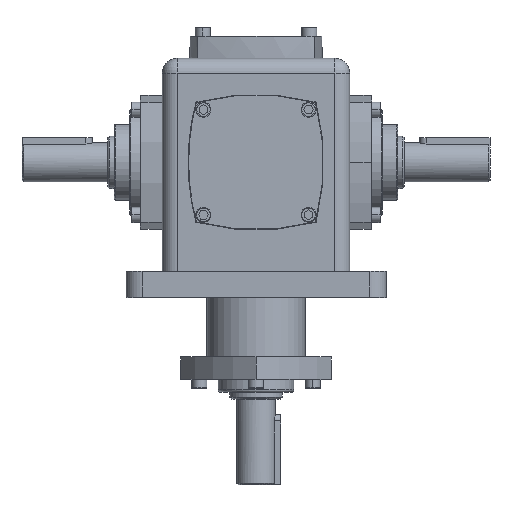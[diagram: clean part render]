
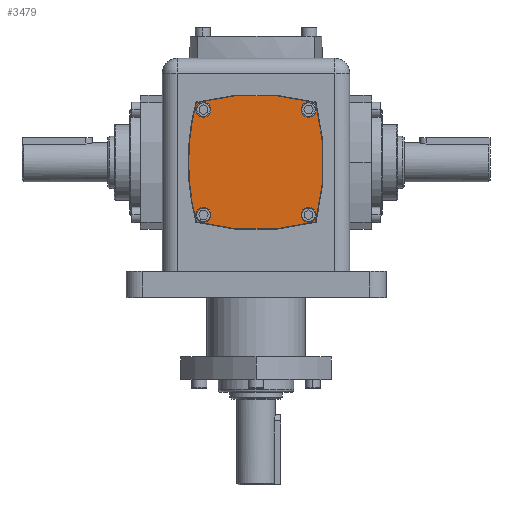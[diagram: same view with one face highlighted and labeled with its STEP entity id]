
A CAD part, top view. The second image highlights one B-rep face of the part: STEP entity #3479.
In plain terms, the highlighted planar face has unit normal (0, 0, 1).
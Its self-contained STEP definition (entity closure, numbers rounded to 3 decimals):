
#493 = VERTEX_POINT ( 'NONE', #20029 ) ;
#644 = EDGE_CURVE ( 'NONE', #18493, #1085, #46108, .T. ) ;
#790 = AXIS2_PLACEMENT_3D ( 'NONE', #41690, #12794, #17549 ) ;
#1085 = VERTEX_POINT ( 'NONE', #44661 ) ;
#3255 = EDGE_LOOP ( 'NONE', ( #30876, #55371 ) ) ;
#3479 = ADVANCED_FACE ( 'NONE', ( #26715, #28177, #43007, #57829, #54852 ), #57305, .F. ) ;
#3573 = EDGE_CURVE ( 'NONE', #30692, #26586, #29672, .T. ) ;
#4223 = VERTEX_POINT ( 'NONE', #14184 ) ;
#5523 = EDGE_LOOP ( 'NONE', ( #34245, #42283, #18437, #55318, #30613 ) ) ;
#6730 = CIRCLE ( 'NONE', #21190, 90.235 ) ;
#7217 = CARTESIAN_POINT ( 'NONE',  ( 20.227, -20.227, 44.52 ) ) ;
#7584 = CARTESIAN_POINT ( 'NONE',  ( -22.936, 22.936, 44.52 ) ) ;
#7673 = CIRCLE ( 'NONE', #37552, 2.9 ) ;
#7924 = DIRECTION ( 'NONE',  ( 0., 0., 1. ) ) ;
#8703 = ORIENTED_EDGE ( 'NONE', *, *, #16431, .F. ) ;
#8801 = EDGE_LOOP ( 'NONE', ( #14129, #16348 ) ) ;
#9022 = CARTESIAN_POINT ( 'NONE',  ( 23.127, -20.227, 44.52 ) ) ;
#10221 = AXIS2_PLACEMENT_3D ( 'NONE', #42704, #18585, #37559 ) ;
#10322 = VERTEX_POINT ( 'NONE', #13184 ) ;
#10336 = DIRECTION ( 'NONE',  ( 0., 0., -1. ) ) ;
#10980 = EDGE_LOOP ( 'NONE', ( #8703, #17822 ) ) ;
#11352 = DIRECTION ( 'NONE',  ( 0., 0., 1. ) ) ;
#11400 = AXIS2_PLACEMENT_3D ( 'NONE', #55925, #10336, #39655 ) ;
#11549 = CIRCLE ( 'NONE', #41992, 2.9 ) ;
#12628 = DIRECTION ( 'NONE',  ( 0., 0., 1. ) ) ;
#12794 = DIRECTION ( 'NONE',  ( 0., 0., 1. ) ) ;
#13184 = CARTESIAN_POINT ( 'NONE',  ( -17.327, 20.227, 44.52 ) ) ;
#14129 = ORIENTED_EDGE ( 'NONE', *, *, #17682, .F. ) ;
#14184 = CARTESIAN_POINT ( 'NONE',  ( -23.127, 20.227, 44.52 ) ) ;
#14681 = CARTESIAN_POINT ( 'NONE',  ( -20.227, -20.227, 44.52 ) ) ;
#16348 = ORIENTED_EDGE ( 'NONE', *, *, #36094, .F. ) ;
#16431 = EDGE_CURVE ( 'NONE', #493, #20836, #61250, .T. ) ;
#16515 = VERTEX_POINT ( 'NONE', #53285 ) ;
#17549 = DIRECTION ( 'NONE',  ( -1., 0., 0. ) ) ;
#17682 = EDGE_CURVE ( 'NONE', #29326, #27664, #7673, .T. ) ;
#17822 = ORIENTED_EDGE ( 'NONE', *, *, #40829, .F. ) ;
#18437 = ORIENTED_EDGE ( 'NONE', *, *, #58022, .T. ) ;
#18493 = VERTEX_POINT ( 'NONE', #46789 ) ;
#18585 = DIRECTION ( 'NONE',  ( 0., 0., 1. ) ) ;
#18962 = CIRCLE ( 'NONE', #38830, 90.235 ) ;
#19770 = AXIS2_PLACEMENT_3D ( 'NONE', #46519, #27487, #50872 ) ;
#19821 = DIRECTION ( 'NONE',  ( -1., 0., 0. ) ) ;
#20029 = CARTESIAN_POINT ( 'NONE',  ( -23.127, -20.227, 44.52 ) ) ;
#20130 = CIRCLE ( 'NONE', #19770, 2.9 ) ;
#20836 = VERTEX_POINT ( 'NONE', #56933 ) ;
#21190 = AXIS2_PLACEMENT_3D ( 'NONE', #58489, #11352, #48741 ) ;
#21433 = CIRCLE ( 'NONE', #790, 90.235 ) ;
#22329 = DIRECTION ( 'NONE',  ( -1., 0., 0. ) ) ;
#24071 = CARTESIAN_POINT ( 'NONE',  ( 20.227, 20.227, 44.52 ) ) ;
#24248 = CIRCLE ( 'NONE', #49692, 2.9 ) ;
#24532 = DIRECTION ( 'NONE',  ( 0., 0., 1. ) ) ;
#25265 = AXIS2_PLACEMENT_3D ( 'NONE', #24071, #37720, #28621 ) ;
#25930 = CARTESIAN_POINT ( 'NONE',  ( -22.936, -22.936, 44.52 ) ) ;
#26582 = DIRECTION ( 'NONE',  ( -1., 0., 0. ) ) ;
#26586 = VERTEX_POINT ( 'NONE', #37344 ) ;
#26715 = FACE_OUTER_BOUND ( 'NONE', #5523, .T. ) ;
#27487 = DIRECTION ( 'NONE',  ( 0., 0., 1. ) ) ;
#27664 = VERTEX_POINT ( 'NONE', #9022 ) ;
#28170 = DIRECTION ( 'NONE',  ( 0., 0., 1. ) ) ;
#28177 = FACE_BOUND ( 'NONE', #8801, .T. ) ;
#28621 = DIRECTION ( 'NONE',  ( -1., 0., 0. ) ) ;
#29070 = EDGE_CURVE ( 'NONE', #4223, #10322, #38669, .T. ) ;
#29120 = AXIS2_PLACEMENT_3D ( 'NONE', #47210, #28170, #56136 ) ;
#29326 = VERTEX_POINT ( 'NONE', #50041 ) ;
#29672 = CIRCLE ( 'NONE', #10221, 90.235 ) ;
#30320 = AXIS2_PLACEMENT_3D ( 'NONE', #54920, #49521, #26582 ) ;
#30369 = EDGE_CURVE ( 'NONE', #1085, #18493, #34787, .T. ) ;
#30613 = ORIENTED_EDGE ( 'NONE', *, *, #3573, .T. ) ;
#30692 = VERTEX_POINT ( 'NONE', #25930 ) ;
#30876 = ORIENTED_EDGE ( 'NONE', *, *, #644, .F. ) ;
#32880 = EDGE_CURVE ( 'NONE', #40734, #41463, #21433, .T. ) ;
#33247 = DIRECTION ( 'NONE',  ( -1., 0., 0. ) ) ;
#34030 = DIRECTION ( 'NONE',  ( -1., 0., 0. ) ) ;
#34245 = ORIENTED_EDGE ( 'NONE', *, *, #59193, .T. ) ;
#34746 = AXIS2_PLACEMENT_3D ( 'NONE', #14681, #43134, #33247 ) ;
#34787 = CIRCLE ( 'NONE', #25265, 2.9 ) ;
#36094 = EDGE_CURVE ( 'NONE', #27664, #29326, #24248, .T. ) ;
#36522 = EDGE_LOOP ( 'NONE', ( #37023, #44418 ) ) ;
#37023 = ORIENTED_EDGE ( 'NONE', *, *, #29070, .F. ) ;
#37344 = CARTESIAN_POINT ( 'NONE',  ( 22.936, -22.936, 44.52 ) ) ;
#37552 = AXIS2_PLACEMENT_3D ( 'NONE', #7217, #44616, #40273 ) ;
#37559 = DIRECTION ( 'NONE',  ( -1., 0., 0. ) ) ;
#37720 = DIRECTION ( 'NONE',  ( 0., 0., 1. ) ) ;
#38669 = CIRCLE ( 'NONE', #29120, 2.9 ) ;
#38830 = AXIS2_PLACEMENT_3D ( 'NONE', #48104, #24532, #19821 ) ;
#39655 = DIRECTION ( 'NONE',  ( -1., 0., 0. ) ) ;
#40273 = DIRECTION ( 'NONE',  ( -1., 0., 0. ) ) ;
#40734 = VERTEX_POINT ( 'NONE', #58372 ) ;
#40829 = EDGE_CURVE ( 'NONE', #20836, #493, #20130, .T. ) ;
#41463 = VERTEX_POINT ( 'NONE', #7584 ) ;
#41690 = CARTESIAN_POINT ( 'NONE',  ( 0., -64.335, 44.52 ) ) ;
#41992 = AXIS2_PLACEMENT_3D ( 'NONE', #43326, #43732, #34030 ) ;
#42283 = ORIENTED_EDGE ( 'NONE', *, *, #32880, .T. ) ;
#42703 = CIRCLE ( 'NONE', #50685, 90.235 ) ;
#42704 = CARTESIAN_POINT ( 'NONE',  ( 0., 64.335, 44.52 ) ) ;
#43007 = FACE_BOUND ( 'NONE', #3255, .T. ) ;
#43134 = DIRECTION ( 'NONE',  ( 0., 0., 1. ) ) ;
#43326 = CARTESIAN_POINT ( 'NONE',  ( -20.227, 20.227, 44.52 ) ) ;
#43732 = DIRECTION ( 'NONE',  ( 0., 0., 1. ) ) ;
#44418 = ORIENTED_EDGE ( 'NONE', *, *, #59179, .F. ) ;
#44616 = DIRECTION ( 'NONE',  ( 0., 0., 1. ) ) ;
#44661 = CARTESIAN_POINT ( 'NONE',  ( 23.127, 20.227, 44.52 ) ) ;
#46108 = CIRCLE ( 'NONE', #30320, 2.9 ) ;
#46519 = CARTESIAN_POINT ( 'NONE',  ( -20.227, -20.227, 44.52 ) ) ;
#46789 = CARTESIAN_POINT ( 'NONE',  ( 17.327, 20.227, 44.52 ) ) ;
#47210 = CARTESIAN_POINT ( 'NONE',  ( -20.227, 20.227, 44.52 ) ) ;
#48104 = CARTESIAN_POINT ( 'NONE',  ( -64.335, 0., 44.52 ) ) ;
#48741 = DIRECTION ( 'NONE',  ( -1., 0., 0. ) ) ;
#49521 = DIRECTION ( 'NONE',  ( 0., 0., 1. ) ) ;
#49692 = AXIS2_PLACEMENT_3D ( 'NONE', #56129, #7924, #55298 ) ;
#50041 = CARTESIAN_POINT ( 'NONE',  ( 17.327, -20.227, 44.52 ) ) ;
#50424 = CARTESIAN_POINT ( 'NONE',  ( 64.335, 0., 44.52 ) ) ;
#50685 = AXIS2_PLACEMENT_3D ( 'NONE', #50424, #12628, #22329 ) ;
#50824 = EDGE_CURVE ( 'NONE', #16515, #30692, #6730, .T. ) ;
#50872 = DIRECTION ( 'NONE',  ( -1., 0., 0. ) ) ;
#53285 = CARTESIAN_POINT ( 'NONE',  ( -25.9, 0., 44.52 ) ) ;
#54852 = FACE_BOUND ( 'NONE', #10980, .T. ) ;
#54920 = CARTESIAN_POINT ( 'NONE',  ( 20.227, 20.227, 44.52 ) ) ;
#55298 = DIRECTION ( 'NONE',  ( -1., 0., 0. ) ) ;
#55318 = ORIENTED_EDGE ( 'NONE', *, *, #50824, .T. ) ;
#55371 = ORIENTED_EDGE ( 'NONE', *, *, #30369, .F. ) ;
#55925 = CARTESIAN_POINT ( 'NONE',  ( 32.167, -32.168, 44.52 ) ) ;
#56129 = CARTESIAN_POINT ( 'NONE',  ( 20.227, -20.227, 44.52 ) ) ;
#56136 = DIRECTION ( 'NONE',  ( -1., 0., 0. ) ) ;
#56933 = CARTESIAN_POINT ( 'NONE',  ( -17.327, -20.227, 44.52 ) ) ;
#57305 = PLANE ( 'NONE',  #11400 ) ;
#57829 = FACE_BOUND ( 'NONE', #36522, .T. ) ;
#58022 = EDGE_CURVE ( 'NONE', #41463, #16515, #42703, .T. ) ;
#58372 = CARTESIAN_POINT ( 'NONE',  ( 22.936, 22.936, 44.52 ) ) ;
#58489 = CARTESIAN_POINT ( 'NONE',  ( 64.335, 0., 44.52 ) ) ;
#59179 = EDGE_CURVE ( 'NONE', #10322, #4223, #11549, .T. ) ;
#59193 = EDGE_CURVE ( 'NONE', #26586, #40734, #18962, .T. ) ;
#61250 = CIRCLE ( 'NONE', #34746, 2.9 ) ;
